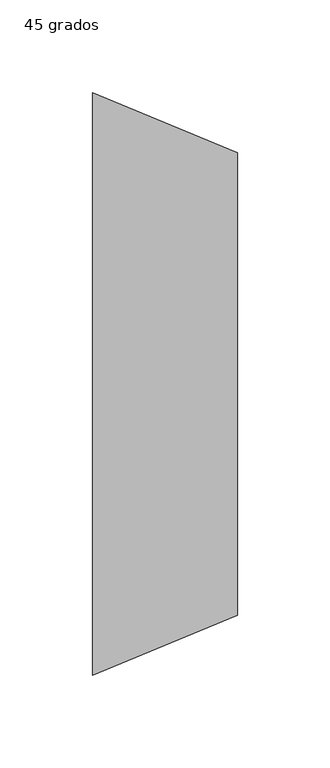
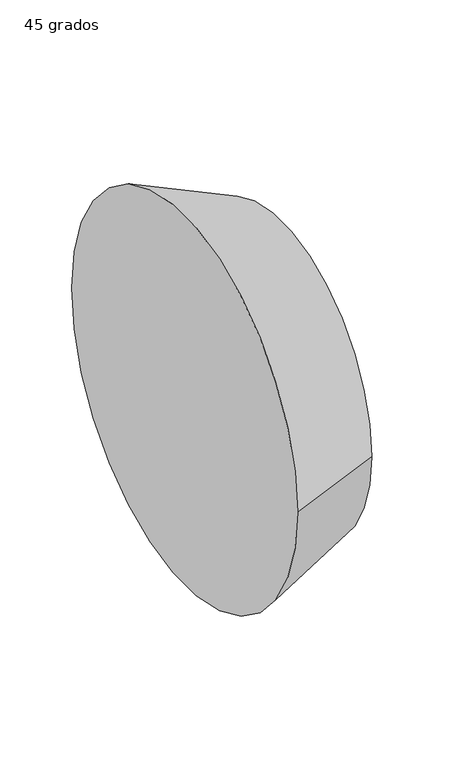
"""IFC4 building model written with IfcOpenShell, lengths in millimetres: duct fitting geometry, M_Transición redonda - Ángulo : 45 grados."""

from ifc_helpers import new_model, si_unit, frame, origin, place, context, project, spatial, polyline, circle_curve, source, transform, mapped, element, save
from ifc_brep_helpers import plane_surface, revolved_surface, advanced_brep


def duct_fitting_45_grados_958f1904(model_context):
    return source(origin(), model_context, "Body", "AdvancedBrep", [
        advanced_brep(
        [(78.4619408, -125.0, 0.0), (78.4619408, 125.0, 0.0), (0.0, -157.5, 0.0), (0.0, 157.5, 0.0)],
        [
            (0, 1, circle_curve(frame((78.4619408, 0.0, 0.0), z_axis=(1.0, 0.0, 0.0), x_axis=(0.0, -1.0, 0.0)), 125.0)),
            (1, 0, circle_curve(frame((78.4619408, 0.0, 0.0), z_axis=(1.0, 0.0, 0.0), x_axis=(0.0, 1.0, 0.0)), 125.0)),
            (2, 3, circle_curve(frame((0.0, 0.0, 0.0), z_axis=(-1.0, 0.0, 0.0), x_axis=(0.0, 1.0, 0.0)), 157.5)),
            (3, 2, circle_curve(frame((0.0, 0.0, 0.0), z_axis=(-1.0, 0.0, 0.0), x_axis=(0.0, -1.0, 0.0)), 157.5)),
            (3, 1),
            (0, 2),
        ],
        [
            plane_surface(frame((78.4619408, 0.0, 0.0), z_axis=(1.0, 0.0, 0.0), x_axis=(0.0, 0.0, -1.0))),
            plane_surface(frame((0.0, 0.0, 0.0), z_axis=(-1.0, 0.0, 0.0), x_axis=(0.0, 0.0, -1.0))),
            revolved_surface(polyline([(78.46194079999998, -124.99999999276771, 0.0), (0.0, -157.5, 0.0)]), (380.2386361, 0.0, 0.0), (-1.0, 0.0, 0.0)),
            revolved_surface(polyline([(78.46194079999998, 124.99999999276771, 0.0), (0.0, 157.5, 0.0)]), (380.2386361, 0.0, 0.0), (-1.0, 0.0, 0.0)),
        ],
        [
            (0, [[1, 2]]),
            (1, [[3, 4]]),
            (2, [[-4, 5, -1, 6]]),
            (3, [[-3, -6, -2, -5]]),
        ],
    ),
    ])


if __name__ == "__main__":
    model = new_model("IFC4")
    model_context = context("Model", 3, world=origin())
    ifc_project = project(units=[si_unit("LENGTHUNIT", "METRE", prefix="MILLI")], contexts=[model_context])
    site = spatial("IfcSite", under=ifc_project)
    building = spatial("IfcBuilding", under=site)
    placement = place(None, origin())
    duct_fitting_45_grados_shape = duct_fitting_45_grados_958f1904(model_context)
    element("IfcDuctFitting", 1, ObjectType="M_Transición redonda - Ángulo : 45 grados", at=placement, inside=building, context=model_context, shape_type="MappedRepresentation", body=[
        mapped(duct_fitting_45_grados_shape, transform((0.0, 0.0, 0.0), x_axis=(1.0, 0.0, 0.0), y_axis=(0.0, 1.0, 0.0), z_axis=(0.0, 0.0, 1.0))),
    ])
    save(model, "model.ifc")
